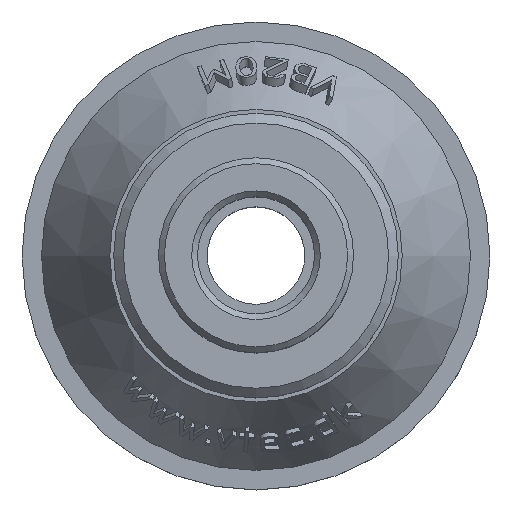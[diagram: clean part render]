
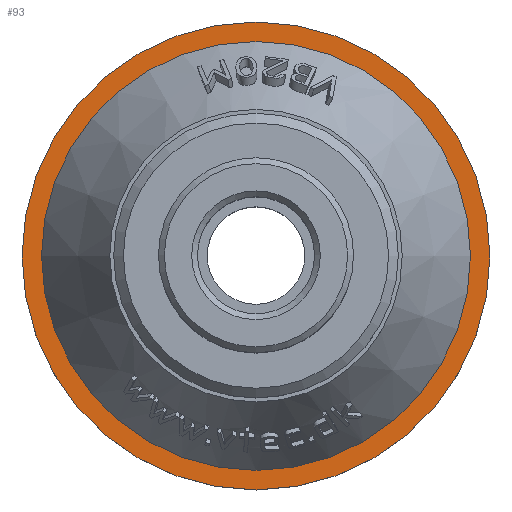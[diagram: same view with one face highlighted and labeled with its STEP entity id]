
A CAD part, top view. The second image highlights one B-rep face of the part: STEP entity #93.
In plain terms, the highlighted planar face has unit normal (0, 0, 1).
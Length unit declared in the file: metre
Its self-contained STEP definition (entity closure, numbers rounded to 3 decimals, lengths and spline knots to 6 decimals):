
#93 = ADVANCED_FACE( '', ( #327, #328 ), #329, .F. );
#327 = FACE_BOUND( '', #1364, .T. );
#328 = FACE_OUTER_BOUND( '', #1365, .T. );
#329 = PLANE( '', #1366 );
#1364 = EDGE_LOOP( '', ( #4909 ) );
#1365 = EDGE_LOOP( '', ( #4910 ) );
#1366 = AXIS2_PLACEMENT_3D( '', #4911, #4912, #4913 );
#4909 = ORIENTED_EDGE( '', *, *, #5827, .F. );
#4910 = ORIENTED_EDGE( '', *, *, #5914, .T. );
#4911 = CARTESIAN_POINT( '', ( 0.011, 0., -0.0005 ) );
#4912 = DIRECTION( '', ( 0., 0., -1. ) );
#4913 = DIRECTION( '', ( -1., 0., 0. ) );
#5827 = EDGE_CURVE( '', #6347, #6347, #6348, .T. );
#5914 = EDGE_CURVE( '', #6511, #6511, #6512, .T. );
#6347 = VERTEX_POINT( '', #7529 );
#6348 = CIRCLE( '', #7530, 0.011 );
#6511 = VERTEX_POINT( '', #8257 );
#6512 = CIRCLE( '', #8258, 0.012 );
#7529 = CARTESIAN_POINT( '', ( 0.011, 0., -0.0005 ) );
#7530 = AXIS2_PLACEMENT_3D( '', #9735, #9736, #9737 );
#8257 = CARTESIAN_POINT( '', ( 0.012, 0., -0.0005 ) );
#8258 = AXIS2_PLACEMENT_3D( '', #9760, #9761, #9762 );
#9735 = CARTESIAN_POINT( '', ( 0., 0., -0.0005 ) );
#9736 = DIRECTION( '', ( 0., 0., 1. ) );
#9737 = DIRECTION( '', ( 1., 0., 0. ) );
#9760 = CARTESIAN_POINT( '', ( 0., 0., -0.0005 ) );
#9761 = DIRECTION( '', ( 0., 0., 1. ) );
#9762 = DIRECTION( '', ( 1., 0., 0. ) );
